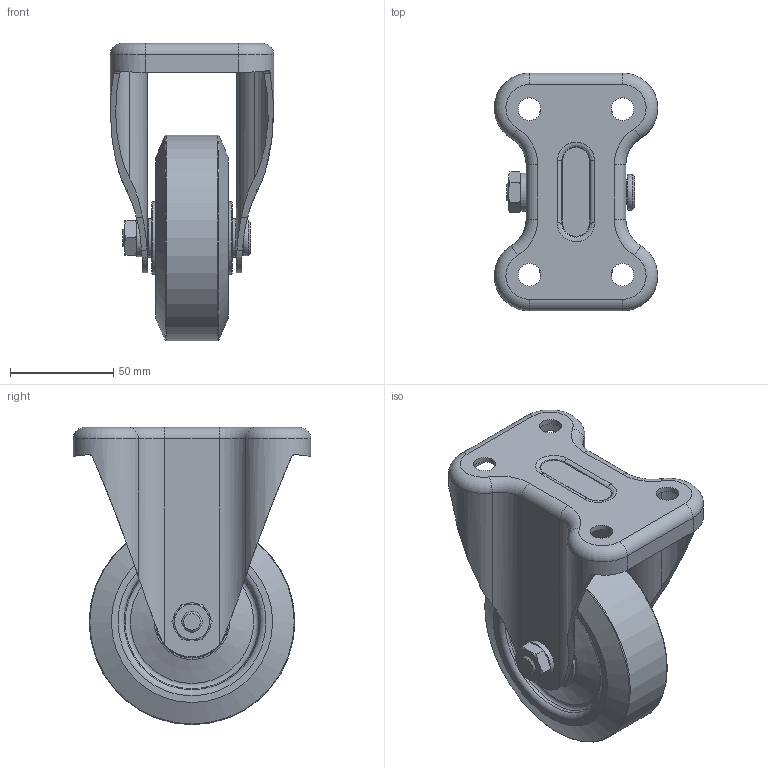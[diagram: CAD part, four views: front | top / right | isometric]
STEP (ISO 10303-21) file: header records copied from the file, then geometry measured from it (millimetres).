
FILE_DESCRIPTION((''),'2;1');
FILE_NAME('\\Cad-srv01-2\図面\900 図面交換受渡し場所\■■カタログ作成中（消さないでください)■■\1203　APPIT　3D\03購買先データ\シシク\解凍データ\UWK-100\UWK-100.stp','2013-07-19T17:22:43',('Administrator'),(''),'Autodesk Inventor 11','Autodesk Inventor 11','');
FILE_SCHEMA(('AUTOMOTIVE_DESIGN { 1 0 10303 214 1 1 1 1 }'));
Length unit declared in the file: millimetre
Products named in the file (1): UWK-100
Bounding box: 79 x 115 x 143.7 mm (x, y, z)
Volume: 421944 mm3; surface area: 94831.7 mm2
Topology: 3 solids, 3 shells, 239 faces, 544 edges, 328 vertices
Faces by surface type: cylinder 74, plane 73, torus 48, cone 32, bspline 12
Full cylindrical faces by diameter (mm): 9 x1, 10 x1, 10.3 x1, 11 x4, 12 x3, 14.2 x2, 18.667 x2, 31.95 x2, 32 x2, 35 x2, 35.15 x2, 74.5 x2, 77.7 x1, 99.4 x1
Entity records: 7918 total; most frequent: CARTESIAN_POINT 2872, DIRECTION 1073, ORIENTED_EDGE 920, EDGE_CURVE 461, AXIS2_PLACEMENT_3D 460, EDGE_LOOP 345, VERTEX_POINT 317, FACE_OUTER_BOUND 239
